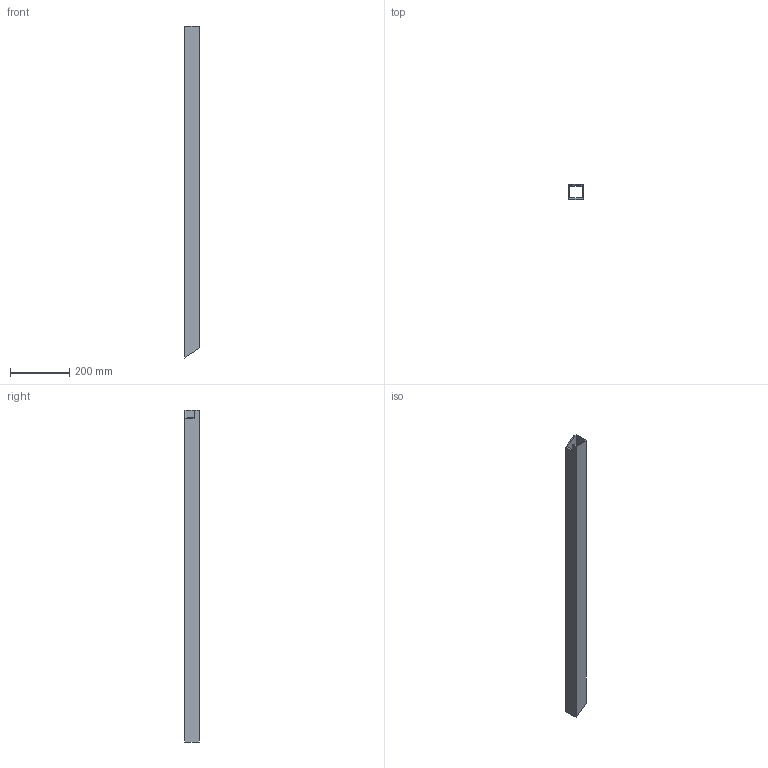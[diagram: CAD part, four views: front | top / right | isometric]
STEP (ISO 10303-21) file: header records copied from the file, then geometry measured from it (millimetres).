
FILE_DESCRIPTION(('Open CASCADE Model'),'2;1');
FILE_NAME('Open CASCADE Shape Model','2026-10-15T15:10:08',('Author'),( 'Open CASCADE'),'Open CASCADE STEP processor 8.0','Open CASCADE 8.0' ,'Unknown');
FILE_SCHEMA(('AUTOMOTIVE_DESIGN { 1 0 10303 214 1 1 1 1 }'));
Length unit declared in the file: millimetre
Products named in the file (1): SHS50x50x4_L1101268_CUT8d077a_P05_JUNTA_21 202
Bounding box: 50 x 50 x 1118.77 mm (x, y, z)
Volume: 805154 mm3; surface area: 404370.5 mm2
Topology: 1 solids, 1 shells, 13 faces, 36 edges, 24 vertices
Faces by surface type: plane 12, cylinder 1
Entity records: 856 total; most frequent: CARTESIAN_POINT 208, DIRECTION 88, ORIENTED_EDGE 72, PCURVE 72, DEFINITIONAL_REPRESENTATION 72, LINE 54, VECTOR 54, B_SPLINE_CURVE_WITH_KNOTS 50
